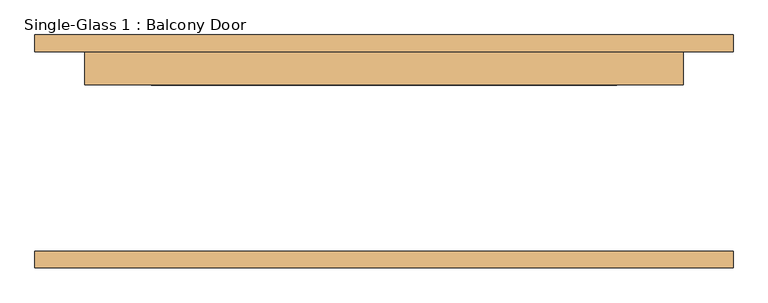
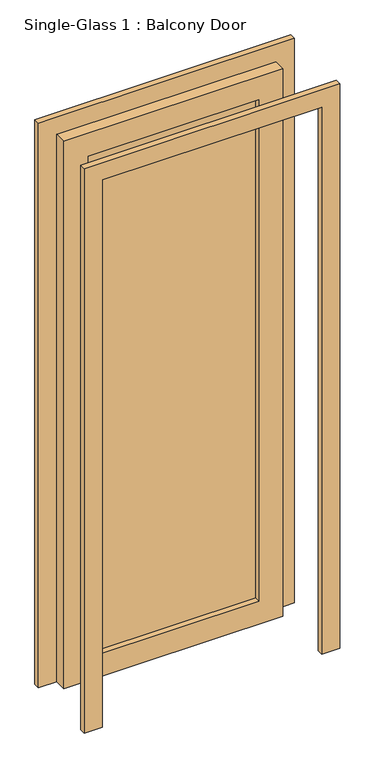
"""IFC4 building model written with IfcOpenShell, lengths in millimetres: door geometry, Single-Glass 1 : Balcony Door."""

import ifcopenshell
import ifcopenshell.guid

model = None  # the IFC model being written
_history = None  # IfcOwnerHistory: only IFC2X3 demands one
_inside = {}  # id of a spatial element -> (the spatial element, [elements in it])
_under = {}  # id of a project, library or spatial element -> (it, [spatial elements below it])
_declared = {}  # id of a project -> (the project, [libraries it declares])
_typed = {}  # id of a type object -> (the type object, [elements of that type])
_made_of = {}  # id of a material, layer set ... -> (it, [elements and type objects made of it])


def new_model(schema):
    """Start an empty IFC model of exactly this schema.

    Asked for "IFC4X3", IfcOpenShell would pick the latest addendum, in which some entities
    have other attributes; the version numbers below select the first issue.
    IFC2X3 requires an IfcOwnerHistory on every rooted entity: one is made here for all.
    """
    global model, _history
    if schema == "IFC4X3":
        model = ifcopenshell.file(schema_version=(4, 3, 0, 0))
    else:
        model = ifcopenshell.file(schema=schema)
    _inside.clear()
    _under.clear()
    _declared.clear()
    _typed.clear()
    _made_of.clear()
    _history = None
    if model.schema == "IFC2X3":
        org = make("IfcOrganization", Name="unknown")
        user = make(
            "IfcPersonAndOrganization",
            ThePerson=make("IfcPerson", FamilyName="unknown"),
            TheOrganization=org,
        )
        app = make(
            "IfcApplication",
            ApplicationDeveloper=org,
            Version="unknown",
            ApplicationFullName="unknown",
            ApplicationIdentifier="unknown",
        )
        _history = make(
            "IfcOwnerHistory",
            OwningUser=user,
            OwningApplication=app,
            ChangeAction="ADDED",
            CreationDate=0,
        )
    return model


def make(cls, **values):
    """One entity of the class cls with the attributes given. An attribute that is None is left unset."""
    return model.create_entity(
        cls, **{name: value for name, value in values.items() if value is not None}
    )


def rooted(cls, **values):
    """An entity with a GlobalId (a new one), such as an element, a storey or a relation."""
    return make(cls, GlobalId=ifcopenshell.guid.new(), OwnerHistory=_history, **values)


def si_unit(unit_type, name, prefix=None):
    """IfcSIUnit, for example si_unit("LENGTHUNIT", "METRE", prefix="MILLI")."""
    return make("IfcSIUnit", UnitType=unit_type, Prefix=prefix, Name=name)


def assignment(units):
    """IfcUnitAssignment: the units of a project."""
    return None if units is None else make("IfcUnitAssignment", Units=units)


def point(xyz):
    """IfcCartesianPoint."""
    return None if xyz is None else make("IfcCartesianPoint", Coordinates=xyz)


def direction(xyz):
    """IfcDirection."""
    return None if xyz is None else make("IfcDirection", DirectionRatios=xyz)


def frame(location, z_axis=None, x_axis=None):
    """IfcAxis2Placement3D, a coordinate frame: its origin and axes. An axis left out is left unset."""
    return make(
        "IfcAxis2Placement3D",
        Location=point(location),
        Axis=direction(z_axis),
        RefDirection=direction(x_axis),
    )


def origin():
    """The frame at (0, 0, 0) with its axes left unset."""
    return frame((0.0, 0.0, 0.0))


def place(relative_to, where):
    """IfcLocalPlacement: puts the frame where relative to a parent placement (None: the world)."""
    return make(
        "IfcLocalPlacement", PlacementRelTo=relative_to, RelativePlacement=where
    )


def context(
    kind, dimensions, precision=None, world=None, true_north=None, identifier=None
):
    """IfcGeometricRepresentationContext, for example the 3D "Model" context."""
    return make(
        "IfcGeometricRepresentationContext",
        ContextIdentifier=identifier,
        ContextType=kind,
        CoordinateSpaceDimension=dimensions,
        Precision=precision,
        WorldCoordinateSystem=world,
        TrueNorth=true_north,
    )


def project(units=None, contexts=None):
    """IfcProject with its units and contexts."""
    return rooted(
        "IfcProject",
        Name="project",
        RepresentationContexts=contexts,
        UnitsInContext=assignment(units),
    )


def spatial(cls, under=None, at=None, **own):
    """A site, building, storey or space (cls), placed at a placement, below another one or the project."""
    s = rooted(cls, ObjectPlacement=at, **own)
    if under is not None:
        _under.setdefault(under.id(), (under, []))[1].append(s)
    return s


def polyline(points):
    """IfcPolyline through the points."""
    return make("IfcPolyline", Points=[point(p) for p in points])


def outline(outer, holes=None, kind="AREA"):
    """IfcArbitraryClosedProfileDef: a profile drawn as a closed curve; with holes, ...WithVoids."""
    if holes is None:
        return make("IfcArbitraryClosedProfileDef", ProfileType=kind, OuterCurve=outer)
    return make(
        "IfcArbitraryProfileDefWithVoids",
        ProfileType=kind,
        OuterCurve=outer,
        InnerCurves=holes,
    )


def extrude(swept, where, along, depth):
    """IfcExtrudedAreaSolid: the profile swept, set in the frame where, extruded along a direction by depth."""
    return make(
        "IfcExtrudedAreaSolid",
        SweptArea=swept,
        Position=where,
        ExtrudedDirection=direction(along),
        Depth=depth,
    )


def shape(context_of_items, identifier, shape_type, items):
    """IfcShapeRepresentation: the items that make up one representation, for example the "Body"."""
    return make(
        "IfcShapeRepresentation",
        ContextOfItems=context_of_items,
        RepresentationIdentifier=identifier,
        RepresentationType=shape_type,
        Items=items,
    )


def source(mapping_origin, context_of_items, identifier, shape_type, items):
    """IfcRepresentationMap: a shape defined once, which mapped items show again and again."""
    return make(
        "IfcRepresentationMap",
        MappingOrigin=mapping_origin,
        MappedRepresentation=shape(context_of_items, identifier, shape_type, items),
    )


def transform(
    local_origin,
    x_axis=None,
    y_axis=None,
    z_axis=None,
    scale=None,
    scale2=None,
    scale3=None,
    uniform=True,
):
    """IfcCartesianTransformationOperator3D, or its non-uniform kind. x_axis, y_axis, z_axis: its Axis1, 2, 3."""
    if uniform:
        return make(
            "IfcCartesianTransformationOperator3D",
            Axis1=direction(x_axis),
            Axis2=direction(y_axis),
            LocalOrigin=point(local_origin),
            Scale=scale,
            Axis3=direction(z_axis),
        )
    return make(
        "IfcCartesianTransformationOperator3DnonUniform",
        Axis1=direction(x_axis),
        Axis2=direction(y_axis),
        LocalOrigin=point(local_origin),
        Scale=scale,
        Axis3=direction(z_axis),
        Scale2=scale2,
        Scale3=scale3,
    )


def mapped(mapping_source, mapping_target):
    """IfcMappedItem: shows the shape of a source again, moved by a transform."""
    return make(
        "IfcMappedItem", MappingSource=mapping_source, MappingTarget=mapping_target
    )


def made_of(thing, what):
    """Note that an element or type object is made of a material, layer set ...; save() writes the relation."""
    if what is not None:
        _made_of.setdefault(what.id(), (what, []))[1].append(thing)
    return thing


def element(
    cls,
    number,
    at=None,
    inside=None,
    cuts=None,
    type_object=None,
    material=None,
    context=None,
    identifier="Body",
    shape_type=None,
    held_by="IfcProductDefinitionShape",
    body=None,
    shapes=None,
    **own,
):
    """One element of the class cls, such as IfcWall. Its Tag is "e" and its number.

    at: its placement. inside: the storey or other place that contains it. cuts: it is an
    opening in that element (IfcRelVoidsElement). A single representation is given by context,
    identifier, shape_type and body (its items); several are given by shapes. held_by: the class
    of the entity that holds the representations. save() writes the other relations.
    """
    e = rooted(cls, Tag="e%d" % number, ObjectPlacement=at, **own)
    if body is not None:
        shapes = [shape(context, identifier, shape_type, body)]
    if shapes is not None:
        e.Representation = make(held_by, Representations=shapes)
    if inside is not None:
        _inside.setdefault(inside.id(), (inside, []))[1].append(e)
    if cuts is not None:
        rooted(
            "IfcRelVoidsElement", RelatingBuildingElement=cuts, RelatedOpeningElement=e
        )
    if type_object is not None:
        _typed.setdefault(type_object.id(), (type_object, []))[1].append(e)
    return made_of(e, material)


def aggregate(whole, parts):
    """IfcRelAggregates: a whole, such as a stair, and the parts it consists of."""
    return rooted("IfcRelAggregates", RelatingObject=whole, RelatedObjects=parts)


def save(model, path):
    """Write the relations noted so far, then the file.

    IfcRelAggregates (storeys below a building ...), IfcRelContainedInSpatialStructure (elements
    in a storey), IfcRelDefinesByType, IfcRelAssociatesMaterial and IfcRelDeclares: one each for
    every whole, place, type object, material and project.
    """
    for whole, parts in _under.values():
        aggregate(whole, parts)
    for where, things in _inside.values():
        rooted(
            "IfcRelContainedInSpatialStructure",
            RelatedElements=things,
            RelatingStructure=where,
        )
    for kind, things in _typed.values():
        rooted("IfcRelDefinesByType", RelatedObjects=things, RelatingType=kind)
    for what, things in _made_of.values():
        rooted("IfcRelAssociatesMaterial", RelatedObjects=things, RelatingMaterial=what)
    for by, libraries in _declared.values():
        rooted("IfcRelDeclares", RelatingContext=by, RelatedDefinitions=libraries)
    model.write(path)


def single_glass_1_balcony_door_3d27845b(model_context):
    return source(origin(), model_context, "Body", "SweptSolid", [
        extrude(outline(polyline([(2413.0, 457.2), (0.0, 457.2), (0.0, 533.4), (2489.2, 533.4), (2489.2, -533.4), (0.0, -533.4), (0.0, -457.2), (2413.0, -457.2), (2413.0, 457.2)])), frame((0.0, -177.8, 0.0), z_axis=(0.0, 1.0, 0.0), x_axis=(0.0, 0.0, 1.0)), (0.0, 0.0, 1.0), 25.4),
        extrude(outline(polyline([(2413.0, 457.2), (0.0, 457.2), (0.0, 533.4), (2489.2, 533.4), (2489.2, -533.4), (0.0, -533.4), (0.0, -457.2), (2413.0, -457.2), (2413.0, 457.2)])), frame((0.0, 152.4, 0.0), z_axis=(0.0, 1.0, 0.0), x_axis=(0.0, 0.0, 1.0)), (0.0, 0.0, 1.0), 25.4),
        extrude(outline(polyline([(355.6, 123.825), (-355.6, 123.825), (-355.6, 130.175), (355.6, 130.175), (355.6, 123.825)])), frame((0.0, 0.0, 101.6), z_axis=(0.0, 0.0, 1.0), x_axis=(1.0, 0.0, 0.0)), (0.0, 0.0, 1.0), 2209.8),
        extrude(outline(polyline([(2413.0, 457.2), (2413.0, -457.2), (0.0, -457.2), (0.0, 457.2), (2413.0, 457.2)]), holes=[polyline([(2311.4, -355.6), (2311.4, 355.6), (101.6, 355.6), (101.6, -355.6), (2311.4, -355.6)])]), frame((0.0, 101.6, 0.0), z_axis=(0.0, 1.0, 0.0), x_axis=(0.0, 0.0, 1.0)), (0.0, 0.0, 1.0), 50.8),
    ])


if __name__ == "__main__":
    model = new_model("IFC4")
    model_context = context("Model", 3, world=origin())
    ifc_project = project(units=[si_unit("LENGTHUNIT", "METRE", prefix="MILLI")], contexts=[model_context])
    site = spatial("IfcSite", under=ifc_project)
    building = spatial("IfcBuilding", under=site)
    placement = place(None, origin())
    single_glass_1_balcony_door_shape = single_glass_1_balcony_door_3d27845b(model_context)
    element("IfcDoor", 1, ObjectType="Single-Glass 1 : Balcony Door", at=placement, inside=building, context=model_context, shape_type="MappedRepresentation", body=[
        mapped(single_glass_1_balcony_door_shape, transform((0.0, 0.0, 0.0), x_axis=(1.0, 0.0, 0.0), y_axis=(0.0, 1.0, 0.0), z_axis=(0.0, 0.0, 1.0))),
    ])
    save(model, "model.ifc")
